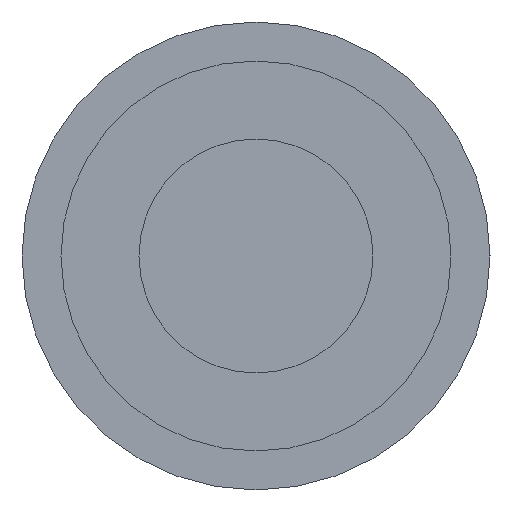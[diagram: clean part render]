
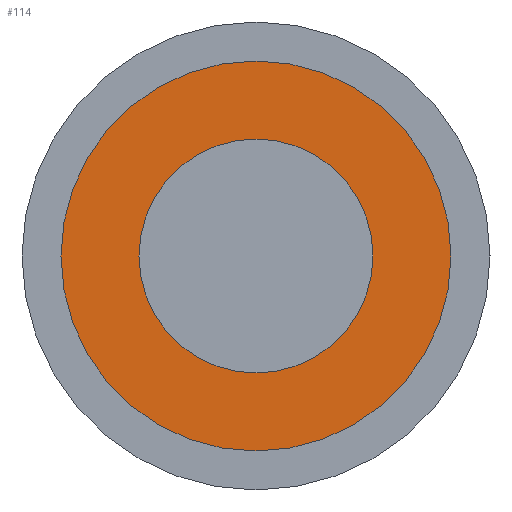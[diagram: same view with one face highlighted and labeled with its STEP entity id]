
A CAD part, left-side view. The second image highlights one B-rep face of the part: STEP entity #114.
In plain terms, the highlighted planar face has unit normal (-1, 0, 0).
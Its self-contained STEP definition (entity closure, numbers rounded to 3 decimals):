
#23=PLANE('',#155);
#32=FACE_OUTER_BOUND('',#42,.T.);
#42=EDGE_LOOP('',(#102));
#58=CIRCLE('',#154,1.25);
#66=VERTEX_POINT('',#222);
#78=EDGE_CURVE('',#66,#66,#58,.T.);
#102=ORIENTED_EDGE('',*,*,#78,.F.);
#114=ADVANCED_FACE('',(#32),#23,.F.);
#154=AXIS2_PLACEMENT_3D('',#224,#192,#193);
#155=AXIS2_PLACEMENT_3D('',#225,#194,#195);
#192=DIRECTION('center_axis',(1.,0.,0.));
#193=DIRECTION('ref_axis',(0.,0.,-1.));
#194=DIRECTION('center_axis',(1.,0.,0.));
#195=DIRECTION('ref_axis',(0.,0.,-1.));
#222=CARTESIAN_POINT('',(50.,0.,1.25));
#224=CARTESIAN_POINT('Origin',(50.,0.,0.));
#225=CARTESIAN_POINT('Origin',(50.,0.,0.));
